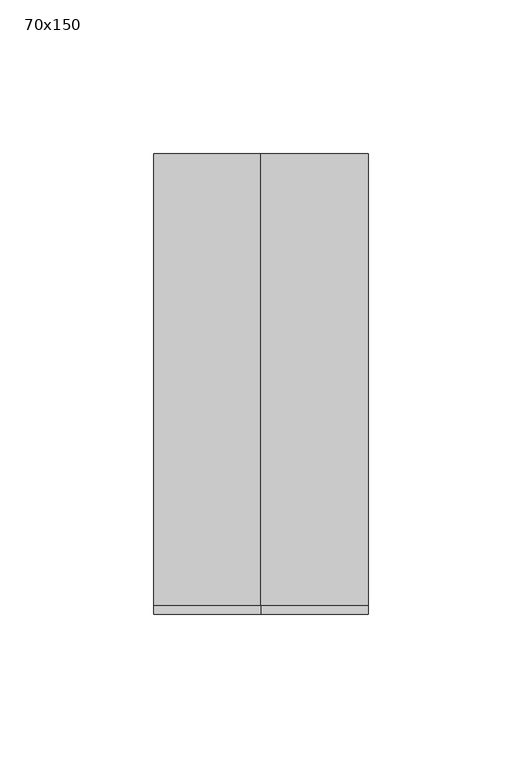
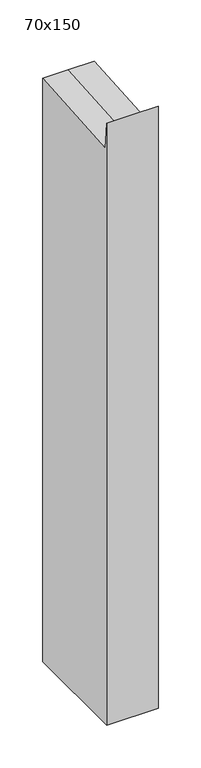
"""IFC4 building model written with IfcOpenShell, lengths in millimetres: member geometry, 長方形のマリオン : 70x150."""

from ifc_helpers import new_model, si_unit, origin, place, context, project, spatial, faceted_brep, source, transform, mapped, element, save


def member_70x150_2d59e3c7(model_context):
    return source(origin(), model_context, "Body", "Brep", [
        faceted_brep([(35.0, 75.0, -830.0), (35.0, -75.0, -830.0), (-35.0, -75.0, -830.0), (-35.0, 75.0, -830.0), (-35.0, 75.0, 5.5953132), (0.0, 75.0, 5.5953132), (35.0, 75.0, 5.5953132), (-35.0, -75.0, 32.1560401), (-35.0, -72.1340754, -5.5792455), (35.0, -75.0, 32.1560401), (0.0, -75.0, 32.1560401), (35.0, -72.1340754, -5.5792455), (0.0, -72.1340754, -5.5792455)], [[[0, 1, 2, 3]], [[4, 5, 6, 0, 3]], [[7, 8, 4, 3, 2]], [[9, 10, 7, 2, 1]], [[6, 11, 9, 1, 0]], [[6, 5, 12, 11]], [[5, 4, 8, 12]], [[8, 7, 10, 12]], [[10, 9, 11, 12]]]),
    ])


if __name__ == "__main__":
    model = new_model("IFC4")
    model_context = context("Model", 3, world=origin())
    ifc_project = project(units=[si_unit("LENGTHUNIT", "METRE", prefix="MILLI")], contexts=[model_context])
    site = spatial("IfcSite", under=ifc_project)
    building = spatial("IfcBuilding", under=site)
    placement = place(None, origin())
    member_70x150_shape = member_70x150_2d59e3c7(model_context)
    element("IfcMember", 1, ObjectType="長方形のマリオン : 70x150", at=placement, inside=building, context=model_context, shape_type="MappedRepresentation", body=[
        mapped(member_70x150_shape, transform((0.0, 0.0, 0.0), x_axis=(1.0, 0.0, 0.0), y_axis=(0.0, 1.0, 0.0), z_axis=(0.0, 0.0, 1.0))),
    ])
    save(model, "model.ifc")
